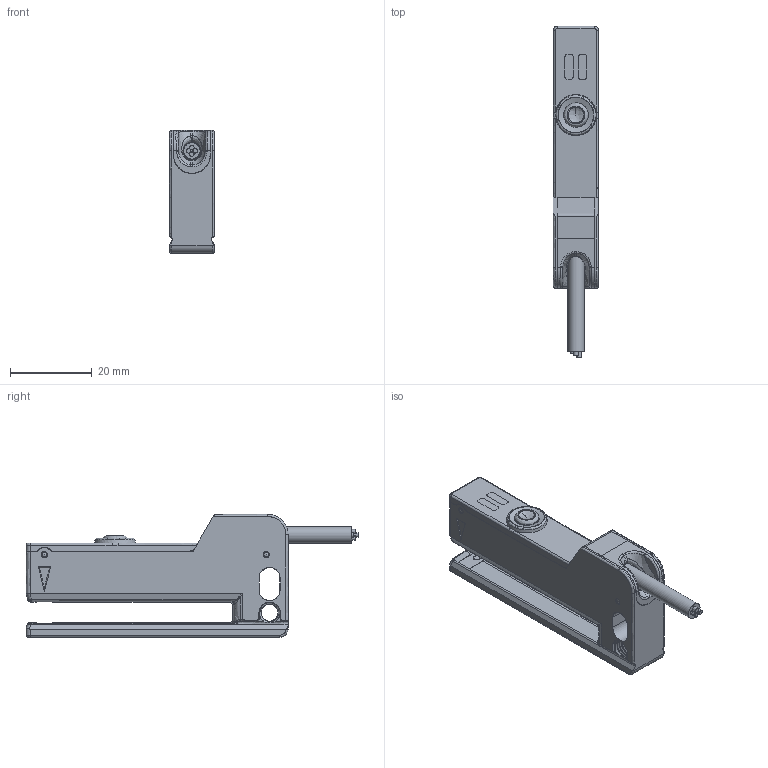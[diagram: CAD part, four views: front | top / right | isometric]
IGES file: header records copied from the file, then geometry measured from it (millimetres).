
Global section: file name: D:\CS\IDF\DSD-0527_SR23_Cable.igs; native system: NX V7.5; preprocessor: SIEMENS PLM Software NX 7.5; date: 20140318.084636; units: millimetre
Bounding box: 11.05 x 81.09 x 30.08 mm (x, y, z)
Surface area: 27660.8 mm2 (no closed solid volume)
Topology: 0 solids, 0 shells, 1935 faces, 19664 edges, 19541 vertices
Faces by surface type: bspline 1935
